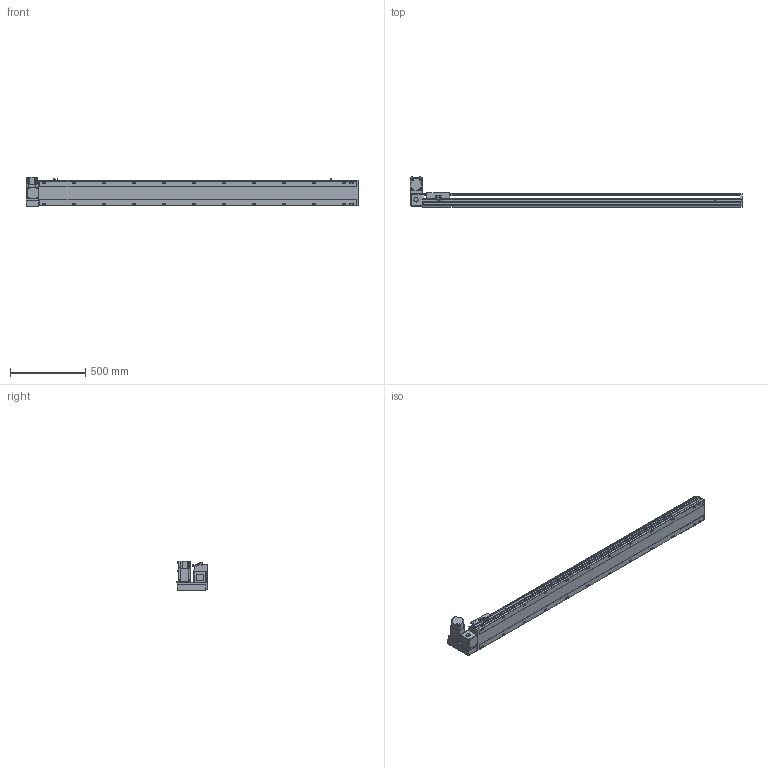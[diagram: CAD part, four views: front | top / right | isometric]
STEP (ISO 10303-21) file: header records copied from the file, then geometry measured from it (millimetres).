
FILE_DESCRIPTION(/* description */ ('STEP AP214'),/* implementation_level */ '2;1');
FILE_NAME(/* name */ 'PBS170-P40-S1850-LU-T75-C1-N(0)',/* time_stamp */ '2022-06-07T10:16:33+02:00',/* author */ ('License CC BY-ND 4.0'),/* organization */ ('CADENAS'),/* preprocessor_version */ 'ST-DEVELOPER v18.102',/* originating_system */ 'PARTsolutions',/* authorisation */ ' ');
FILE_SCHEMA (('AUTOMOTIVE_DESIGN {1 0 10303 214 3 1 1}'));
Length unit declared in the file: millimetre
Products named in the file (7): PBS170-P40-S1850-LU-T75-C1-N(0); PBS170_sensor; PBS170_plant; PBS170_sliser; T75-p1; PBS170T-LU_motors; PBS170-S1850()_body
Assembly tree (8 placements, depth 2):
  PBS170-P40-S1850-LU-T75-C1-N(0)
    PBS170_sensor  x3
    PBS170_plant
    PBS170_sliser
    T75-p1
    PBS170T-LU_motors
    PBS170-S1850()_body
Bounding box: 2213 x 206 x 197.3 mm (x, y, z)
Volume: 17044186.4 mm3; surface area: 2171960.1 mm2
Topology: 8 solids, 8 shells, 1146 faces, 3035 edges, 1978 vertices
Faces by surface type: plane 711, cylinder 371, cone 54, sphere 8, torus 2
Full cylindrical faces by diameter (mm): 3.242 x4, 4 x2, 4.4 x4, 4.5 x6, 4.917 x4, 6 x9, 6.647 x32, 7 x2, 7.5 x4, 8 x8, 8.5 x24, 10 x4, 10.5 x24, 11 x2, 30 x2, 40 x1, 70 x1
Entity records: 32950 total; most frequent: CARTESIAN_POINT 6161, DIRECTION 5580, ORIENTED_EDGE 5268, EDGE_CURVE 2634, AXIS2_PLACEMENT_3D 1957, VERTEX_POINT 1826, LINE 1666, VECTOR 1666
